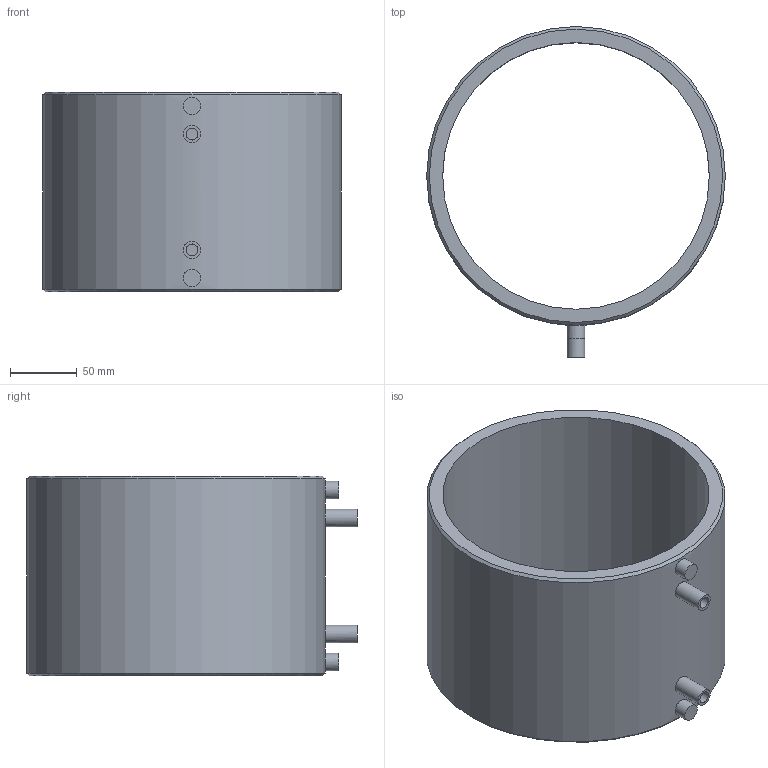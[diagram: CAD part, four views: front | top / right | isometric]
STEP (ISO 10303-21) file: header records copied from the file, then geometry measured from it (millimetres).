
FILE_DESCRIPTION(/* description */ (''),/* implementation_level */ '2;1');
FILE_NAME(/* name */ 'Z:\Geberit\Export\NewStep\370775.stp',/* time_stamp */ '2014-04-02T08:04:42+02:00',/* author */ ('Marco'),/* organization */ (''),/* preprocessor_version */ 'ST-DEVELOPER v15.2',/* originating_system */ 'Autodesk Inventor 2014',/* authorisation */ '');
FILE_SCHEMA (('AUTOMOTIVE_DESIGN { 1 0 10303 214 3 1 1 }'));
Length unit declared in the file: millimetre
Products named in the file (1): 370775
Bounding box: 224 x 248 x 150 mm (x, y, z)
Volume: 1202005.7 mm3; surface area: 218282.1 mm2
Topology: 1 solids, 1 shells, 18 faces, 28 edges, 18 vertices
Faces by surface type: cylinder 10, plane 6, cone 2
Full cylindrical faces by diameter (mm): 9 x2, 13 x4, 200 x1, 224 x1
Entity records: 569 total; most frequent: CARTESIAN_POINT 253, DIRECTION 62, EDGE_LOOP 36, ORIENTED_EDGE 36, AXIS2_PLACEMENT_3D 31, FACE_BOUND 22, VERTEX_POINT 18, EDGE_CURVE 18
